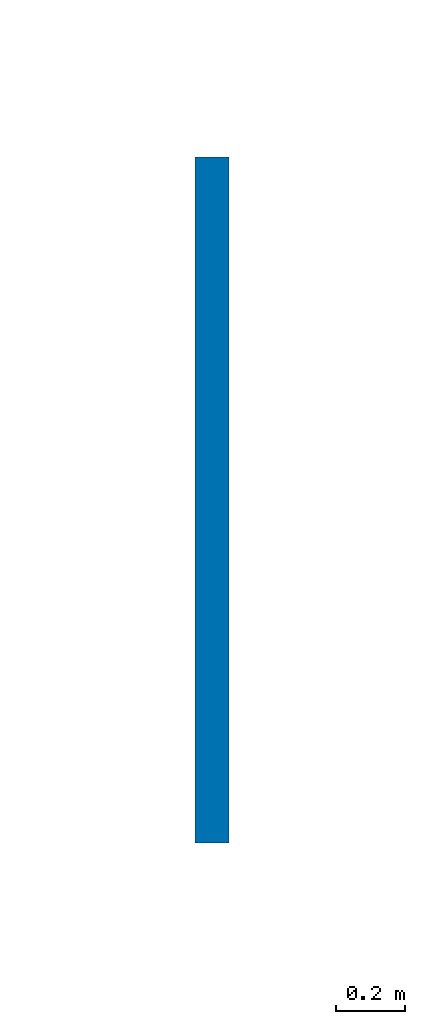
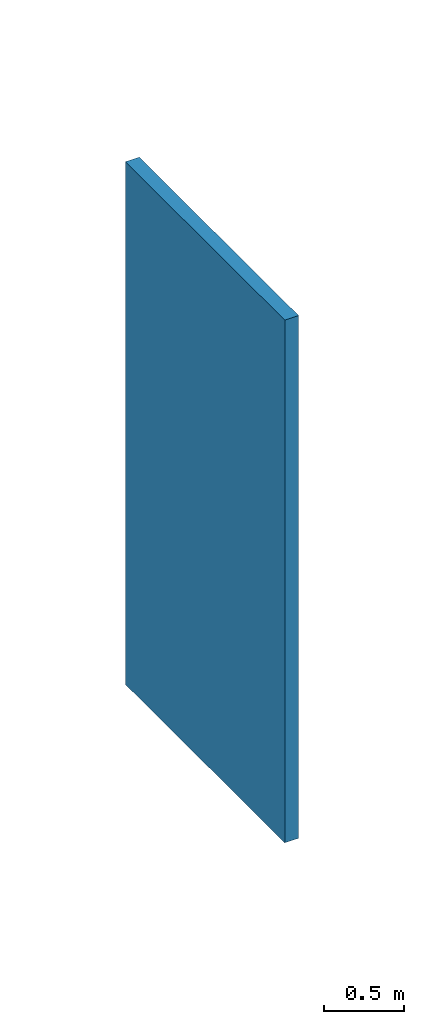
# One storey, part 109 of 164: 1 wall.
"""IFC2X3 building model written with IfcOpenShell, lengths in millimetres."""

from ifc_helpers import new_model, entity, si_unit, converted_unit, derived_unit, direction, frame, frame_2d, origin, place, context, subcontext, project, spatial, rectangle, extrude, material, layer, layer_set, layer_usage, type_object, element, save


model = new_model("IFC2X3")

# Units and contexts
model_context = context("Model", 3, precision=0.01, world=origin(), true_north=direction((6.12303176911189e-17, 1.0)))
body_context = subcontext(model_context, "Body", "Model", "MODEL_VIEW")
ifc_project = project(units=[si_unit("LENGTHUNIT", "METRE", prefix="MILLI"), si_unit("AREAUNIT", "SQUARE_METRE"), si_unit("VOLUMEUNIT", "CUBIC_METRE"), converted_unit("PLANEANGLEUNIT", "DEGREE", entity("IfcRatioMeasure", 0.0174532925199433), si_unit("PLANEANGLEUNIT", "RADIAN"), dimensions=[0, 0, 0, 0, 0, 0, 0]), si_unit("MASSUNIT", "GRAM", prefix="KILO"), derived_unit("MASSDENSITYUNIT", [(si_unit("MASSUNIT", "GRAM", prefix="KILO"), 1), (si_unit("LENGTHUNIT", "METRE"), -3)]), derived_unit("MOMENTOFINERTIAUNIT", [(si_unit("LENGTHUNIT", "METRE"), 4)]), si_unit("TIMEUNIT", "SECOND"), si_unit("FREQUENCYUNIT", "HERTZ"), si_unit("THERMODYNAMICTEMPERATUREUNIT", "DEGREE_CELSIUS"), derived_unit("THERMALTRANSMITTANCEUNIT", [(si_unit("MASSUNIT", "GRAM", prefix="KILO"), 1), (si_unit("THERMODYNAMICTEMPERATUREUNIT", "KELVIN"), -1), (si_unit("TIMEUNIT", "SECOND"), -3)]), derived_unit("VOLUMETRICFLOWRATEUNIT", [(si_unit("LENGTHUNIT", "METRE"), 3), (si_unit("TIMEUNIT", "SECOND"), -1)]), si_unit("ELECTRICCURRENTUNIT", "AMPERE"), si_unit("ELECTRICVOLTAGEUNIT", "VOLT"), si_unit("POWERUNIT", "WATT"), si_unit("FORCEUNIT", "NEWTON", prefix="KILO"), si_unit("ILLUMINANCEUNIT", "LUX"), si_unit("LUMINOUSFLUXUNIT", "LUMEN"), si_unit("LUMINOUSINTENSITYUNIT", "CANDELA"), derived_unit("USERDEFINED", [(si_unit("MASSUNIT", "GRAM", prefix="KILO"), -1), (si_unit("LENGTHUNIT", "METRE"), -2), (si_unit("TIMEUNIT", "SECOND"), 3), (si_unit("LUMINOUSFLUXUNIT", "LUMEN"), 1)]), derived_unit("LINEARVELOCITYUNIT", [(si_unit("LENGTHUNIT", "METRE"), 1), (si_unit("TIMEUNIT", "SECOND"), -1)]), si_unit("PRESSUREUNIT", "PASCAL"), derived_unit("USERDEFINED", [(si_unit("LENGTHUNIT", "METRE"), -2), (si_unit("MASSUNIT", "GRAM", prefix="KILO"), 1), (si_unit("TIMEUNIT", "SECOND"), -2)]), derived_unit("LINEARFORCEUNIT", [(si_unit("MASSUNIT", "GRAM", prefix="KILO"), 1), (si_unit("LENGTHUNIT", "METRE"), 1), (si_unit("TIMEUNIT", "SECOND"), -2), (si_unit("LENGTHUNIT", "METRE"), -1)]), derived_unit("PLANARFORCEUNIT", [(si_unit("MASSUNIT", "GRAM", prefix="KILO"), 1), (si_unit("LENGTHUNIT", "METRE"), 1), (si_unit("TIMEUNIT", "SECOND"), -2), (si_unit("LENGTHUNIT", "METRE"), -2)])], contexts=[model_context])

# Site, building, storey
site_placement = place(None, origin())
site = spatial("IfcSite", under=ifc_project, at=site_placement, Name="Default", CompositionType="ELEMENT")
building_placement = place(site_placement, origin())
building = spatial("IfcBuilding", under=site, at=building_placement, CompositionType="ELEMENT")
storey_placement = place(building_placement, origin())
storey = spatial("IfcBuildingStorey", under=building, at=storey_placement, Name="Level 1", CompositionType="ELEMENT", Elevation=0.0)

# Wall
ifc_material = material(Name="Default Wall")
ifc_layer = layer(ifc_material, 100.0)
ifc_layer_set = layer_set([ifc_layer], Name="Basic Wall:Generic - 100mm")
ifc_layer_usage = layer_usage(ifc_layer_set, "AXIS2", "NEGATIVE", 50.0)
wall_type = type_object("IfcWallType", Name="Basic Wall:Generic - 100mm", PredefinedType="STANDARD", material=ifc_layer_set)
wall_placement = place(storey_placement, frame((1000050.0, 1101000.0, 0.0), z_axis=(0.0, 0.0, 1.0), x_axis=(0.0, -1.0, 0.0)))
element("IfcWallStandardCase", 1, at=wall_placement, inside=storey, type_object=wall_type, material=ifc_layer_usage, Name="Basic Wall:Generic - 100mm", ObjectType="Basic Wall:Generic - 100mm", context=body_context, shape_type="SweptSolid", body=[
    extrude(rectangle(XDim=2000.0000000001, YDim=100.000000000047, at=frame_2d((1000.00000000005, 1.60582658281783e-12), x_axis=(-1.0, 0.0))), origin(), (0.0, 0.0, 1.0), 4000.0),
])

save(model, "model.ifc")
